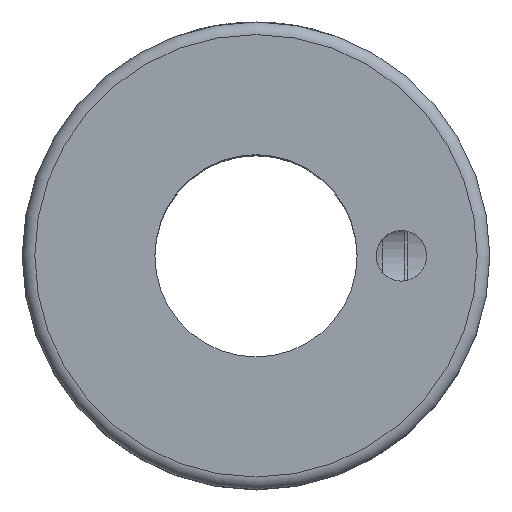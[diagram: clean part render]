
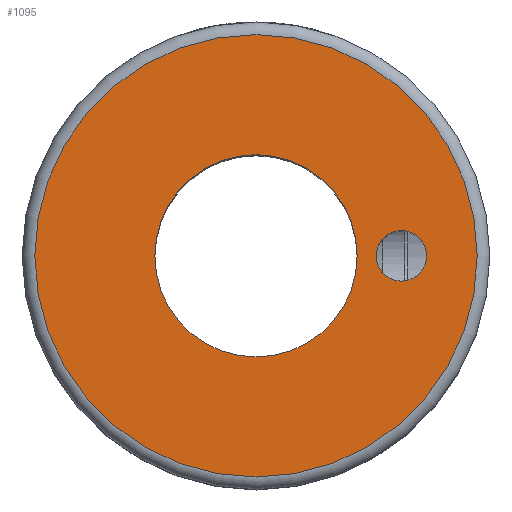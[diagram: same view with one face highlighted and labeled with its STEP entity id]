
A CAD part, top view. The second image highlights one B-rep face of the part: STEP entity #1095.
In plain terms, the highlighted planar face has unit normal (0, 0, 1).
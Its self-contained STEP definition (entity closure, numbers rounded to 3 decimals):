
#31=FACE_BOUND('',#177,.T.);
#32=FACE_BOUND('',#178,.T.);
#58=PLANE('',#1213);
#111=FACE_OUTER_BOUND('',#176,.T.);
#176=EDGE_LOOP('',(#913));
#177=EDGE_LOOP('',(#914));
#178=EDGE_LOOP('',(#915));
#390=CIRCLE('',#1160,2.);
#417=CIRCLE('',#1214,17.5);
#418=CIRCLE('',#1215,8.);
#453=VERTEX_POINT('',#1706);
#510=VERTEX_POINT('',#2175);
#511=VERTEX_POINT('',#2177);
#569=EDGE_CURVE('',#453,#453,#390,.T.);
#653=EDGE_CURVE('',#510,#510,#417,.T.);
#654=EDGE_CURVE('',#511,#511,#418,.T.);
#913=ORIENTED_EDGE('',*,*,#653,.F.);
#914=ORIENTED_EDGE('',*,*,#569,.T.);
#915=ORIENTED_EDGE('',*,*,#654,.T.);
#1095=ADVANCED_FACE('',(#111,#31,#32),#58,.T.);
#1160=AXIS2_PLACEMENT_3D('',#1707,#1310,#1311);
#1213=AXIS2_PLACEMENT_3D('',#2174,#1444,#1445);
#1214=AXIS2_PLACEMENT_3D('',#2176,#1446,#1447);
#1215=AXIS2_PLACEMENT_3D('',#2178,#1448,#1449);
#1310=DIRECTION('center_axis',(0.,0.,-1.));
#1311=DIRECTION('ref_axis',(1.,0.,0.));
#1444=DIRECTION('center_axis',(0.,0.,1.));
#1445=DIRECTION('ref_axis',(1.,0.,0.));
#1446=DIRECTION('center_axis',(0.,0.,-1.));
#1447=DIRECTION('ref_axis',(0.,1.,0.));
#1448=DIRECTION('center_axis',(0.,0.,-1.));
#1449=DIRECTION('ref_axis',(1.,0.,0.));
#1706=CARTESIAN_POINT('',(9.5,0.,0.));
#1707=CARTESIAN_POINT('Origin',(11.5,0.,0.));
#2174=CARTESIAN_POINT('Origin',(0.,-18.5,0.));
#2175=CARTESIAN_POINT('',(17.5,0.,0.));
#2176=CARTESIAN_POINT('Origin',(0.,0.,0.));
#2177=CARTESIAN_POINT('',(0.,8.,0.));
#2178=CARTESIAN_POINT('Origin',(0.,0.,0.));
